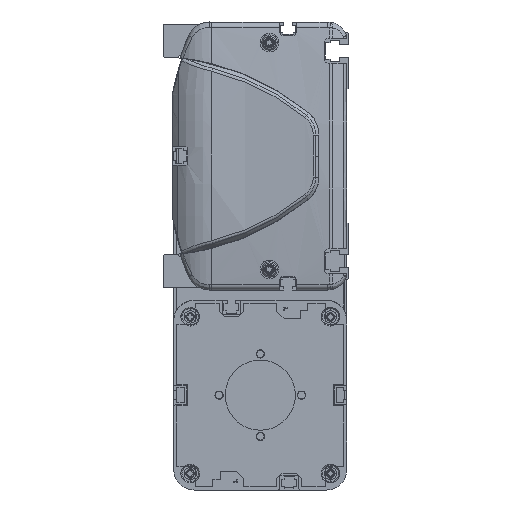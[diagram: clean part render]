
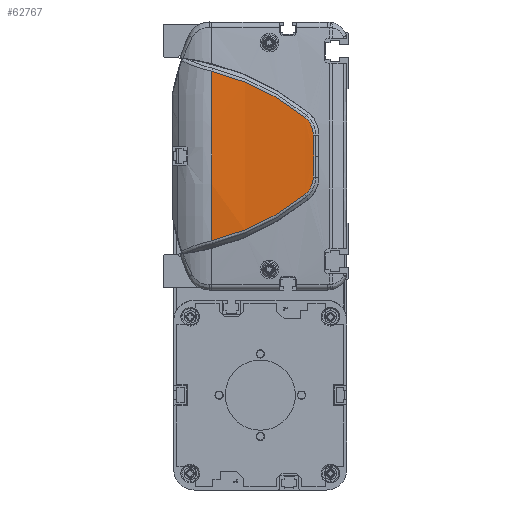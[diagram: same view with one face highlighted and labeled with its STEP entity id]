
A CAD part, left-side view. The second image highlights one B-rep face of the part: STEP entity #62767.
In plain terms, the highlighted cylindrical face has radius 500 mm (diameter 1000 mm), a partial arc.
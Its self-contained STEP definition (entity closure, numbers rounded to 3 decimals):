
#59008=CARTESIAN_POINT('',(-614.,66.962,0.));
#59009=DIRECTION('',(0.,-1.,0.));
#59010=DIRECTION('',(-0.997,0.,0.082));
#59011=AXIS2_PLACEMENT_3D('',#59008,#59009,#59010);
#59885=CARTESIAN_POINT('',(-1113.648,21.913,
-18.759));
#59886=CARTESIAN_POINT('',(-1113.449,28.504,
-24.058));
#59887=CARTESIAN_POINT('',(-1112.934,42.795,
-33.27));
#59888=CARTESIAN_POINT('',(-1112.471,58.756,
-39.127));
#59889=CARTESIAN_POINT('',(-1112.306,66.962,
-41.121));
#59891=CARTESIAN_POINT('',(-1112.306,66.962,
41.121));
#59892=CARTESIAN_POINT('',(-1112.471,58.756,
39.127));
#59893=CARTESIAN_POINT('',(-1112.934,42.795,
33.27));
#59894=CARTESIAN_POINT('',(-1113.449,28.504,
24.058));
#59895=CARTESIAN_POINT('',(-1113.648,21.913,
18.759));
#59897=CARTESIAN_POINT('',(-1113.648,21.913,
18.759));
#59898=CARTESIAN_POINT('',(-1113.686,20.635,
17.736));
#59899=CARTESIAN_POINT('',(-1113.779,18.536,
15.107));
#59900=CARTESIAN_POINT('',(-1113.863,17.752,
11.827));
#59901=CARTESIAN_POINT('',(-1113.896,17.724,
10.178));
#59903=CARTESIAN_POINT('',(-1113.896,17.724,
10.178));
#59904=CARTESIAN_POINT('',(-1113.92,17.707,
9.025));
#59905=CARTESIAN_POINT('',(-1113.959,17.667,
6.734));
#59906=CARTESIAN_POINT('',(-1113.993,17.58,
3.34));
#59907=CARTESIAN_POINT('',(-1114.,17.498,
1.108));
#59908=CARTESIAN_POINT('',(-1114.,17.449,
0.));
#59910=CARTESIAN_POINT('',(-1114.,17.449,
0.));
#59911=CARTESIAN_POINT('',(-1114.,17.498,
-1.108));
#59912=CARTESIAN_POINT('',(-1113.993,17.58,
-3.34));
#59913=CARTESIAN_POINT('',(-1113.959,17.667,
-6.733));
#59914=CARTESIAN_POINT('',(-1113.92,17.707,
-9.027));
#59915=CARTESIAN_POINT('',(-1113.896,17.724,
-10.18));
#59917=CARTESIAN_POINT('',(-1113.896,17.724,
-10.18));
#59918=CARTESIAN_POINT('',(-1113.863,17.752,
-11.828));
#59919=CARTESIAN_POINT('',(-1113.779,18.537,
-15.109));
#59920=CARTESIAN_POINT('',(-1113.686,20.635,
-17.736));
#59921=CARTESIAN_POINT('',(-1113.648,21.913,
-18.759));
#60587=VERTEX_POINT('',#59885);
#60588=VERTEX_POINT('',#59889);
#60589=CARTESIAN_POINT('',(-1112.306,66.962,
41.121));
#60590=VERTEX_POINT('',#60589);
#60591=VERTEX_POINT('',#59895);
#60592=VERTEX_POINT('',#59901);
#60593=VERTEX_POINT('',#59908);
#60594=VERTEX_POINT('',#59915);
#62748=CARTESIAN_POINT('',(-614.,8.606,0.));
#62749=DIRECTION('',(0.,1.,0.));
#62750=DIRECTION('',(1.,0.,0.));
#62751=AXIS2_PLACEMENT_3D('',#62748,#62749,#62750);
#62752=CYLINDRICAL_SURFACE('',#62751,500.);
#62754=ORIENTED_EDGE('',*,*,#62753,.T.);
#62755=ORIENTED_EDGE('',*,*,#61388,.F.);
#62757=ORIENTED_EDGE('',*,*,#62756,.T.);
#62759=ORIENTED_EDGE('',*,*,#62758,.T.);
#62761=ORIENTED_EDGE('',*,*,#62760,.T.);
#62763=ORIENTED_EDGE('',*,*,#62762,.T.);
#62764=ORIENTED_EDGE('',*,*,#62738,.T.);
#62765=EDGE_LOOP('',(#62754,#62755,#62757,#62759,#62761,#62763,#62764));
#62766=FACE_OUTER_BOUND('',#62765,.F.);
#62767=ADVANCED_FACE('',(#62766),#62752,.T.);
#59012=CIRCLE('',#59011,500.);
#59890=B_SPLINE_CURVE_WITH_KNOTS('',3,(#59885,#59886,#59887,#59888,#59889),
.UNSPECIFIED.,.F.,.F.,(4,1,4),(0.,0.5,1.),.UNSPECIFIED.);
#59896=B_SPLINE_CURVE_WITH_KNOTS('',3,(#59891,#59892,#59893,#59894,#59895),
.UNSPECIFIED.,.F.,.F.,(4,1,4),(0.,0.5,1.),.UNSPECIFIED.);
#59902=B_SPLINE_CURVE_WITH_KNOTS('',3,(#59897,#59898,#59899,#59900,#59901),
.UNSPECIFIED.,.F.,.F.,(4,1,4),(0.,0.5,1.),.UNSPECIFIED.);
#59909=B_SPLINE_CURVE_WITH_KNOTS('',3,(#59903,#59904,#59905,#59906,#59907,
#59908),.UNSPECIFIED.,.F.,.F.,(4,1,1,4),(0.,0.333,
0.667,1.),.UNSPECIFIED.);
#59916=B_SPLINE_CURVE_WITH_KNOTS('',3,(#59910,#59911,#59912,#59913,#59914,
#59915),.UNSPECIFIED.,.F.,.F.,(4,1,1,4),(0.,0.333,
0.667,1.),.UNSPECIFIED.);
#59922=B_SPLINE_CURVE_WITH_KNOTS('',3,(#59917,#59918,#59919,#59920,#59921),
.UNSPECIFIED.,.F.,.F.,(4,1,4),(0.,0.5,1.),.UNSPECIFIED.);
#61388=EDGE_CURVE('',#60590,#60588,#59012,.T.);
#62738=EDGE_CURVE('',#60594,#60587,#59922,.T.);
#62753=EDGE_CURVE('',#60587,#60588,#59890,.T.);
#62756=EDGE_CURVE('',#60590,#60591,#59896,.T.);
#62758=EDGE_CURVE('',#60591,#60592,#59902,.T.);
#62760=EDGE_CURVE('',#60592,#60593,#59909,.T.);
#62762=EDGE_CURVE('',#60593,#60594,#59916,.T.);
